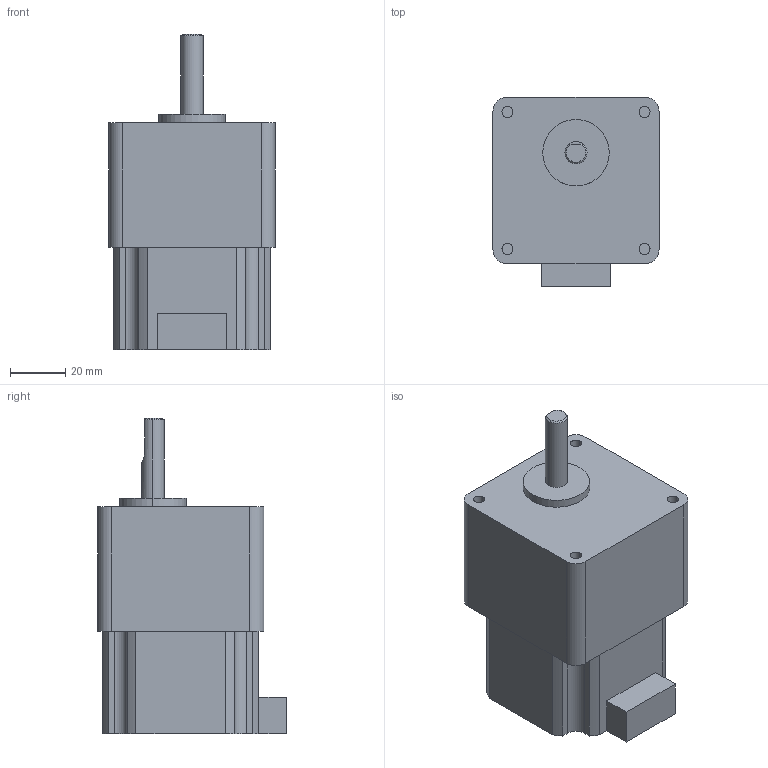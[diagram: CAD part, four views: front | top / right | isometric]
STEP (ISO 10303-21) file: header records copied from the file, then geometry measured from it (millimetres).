
FILE_DESCRIPTION (( 'STEP AP203' ), '1' );
FILE_NAME ('PMSA-仭56D1-S仭_3D.STEP', '2020-12-07T06:23:08', ( '' ), ( '' ), 'SwSTEP 2.0', 'SolidWorks 2018', '' );
FILE_SCHEMA (( 'CONFIG_CONTROL_DESIGN' ));
Length unit declared in the file: millimetre
Products named in the file (1): PMSA-仭56D1-S仭_3D
Bounding box: 60 x 68.2 x 114 mm (x, y, z)
Volume: 272494.4 mm3; surface area: 27963.6 mm2
Topology: 2 solids, 2 shells, 64 faces, 157 edges, 104 vertices
Faces by surface type: plane 32, cylinder 29, cone 3
Entity records: 2009 total; most frequent: CARTESIAN_POINT 361, DIRECTION 344, ORIENTED_EDGE 314, EDGE_CURVE 157, AXIS2_PLACEMENT_3D 125, VERTEX_POINT 104, VECTOR 94, LINE 94
